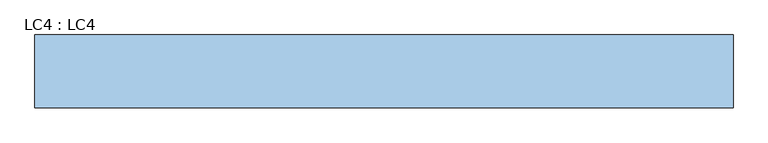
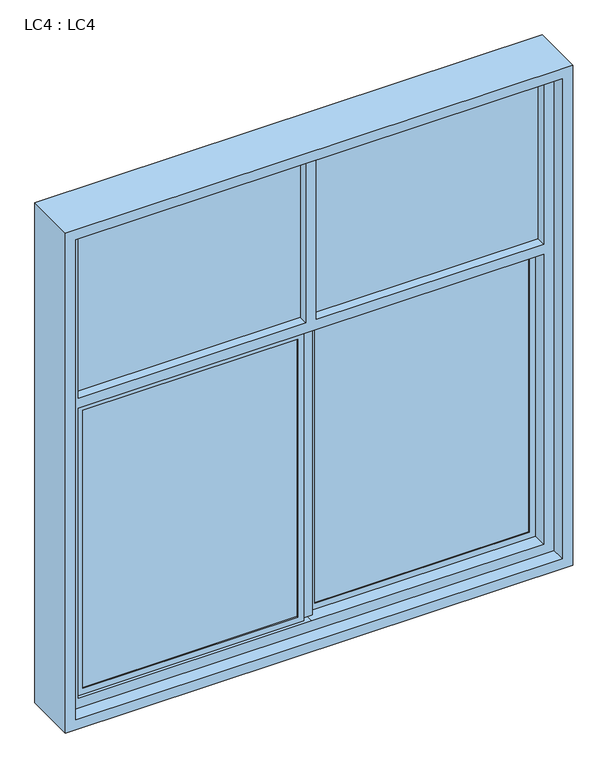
"""IFC4 building model written with IfcOpenShell, lengths in millimetres: window geometry, LC4 : LC4."""

import ifcopenshell
import ifcopenshell.guid

model = None  # the IFC model being written
_history = None  # IfcOwnerHistory: only IFC2X3 demands one
_inside = {}  # id of a spatial element -> (the spatial element, [elements in it])
_under = {}  # id of a project, library or spatial element -> (it, [spatial elements below it])
_declared = {}  # id of a project -> (the project, [libraries it declares])
_typed = {}  # id of a type object -> (the type object, [elements of that type])
_made_of = {}  # id of a material, layer set ... -> (it, [elements and type objects made of it])


def new_model(schema):
    """Start an empty IFC model of exactly this schema.

    Asked for "IFC4X3", IfcOpenShell would pick the latest addendum, in which some entities
    have other attributes; the version numbers below select the first issue.
    IFC2X3 requires an IfcOwnerHistory on every rooted entity: one is made here for all.
    """
    global model, _history
    if schema == "IFC4X3":
        model = ifcopenshell.file(schema_version=(4, 3, 0, 0))
    else:
        model = ifcopenshell.file(schema=schema)
    _inside.clear()
    _under.clear()
    _declared.clear()
    _typed.clear()
    _made_of.clear()
    _history = None
    if model.schema == "IFC2X3":
        org = make("IfcOrganization", Name="unknown")
        user = make(
            "IfcPersonAndOrganization",
            ThePerson=make("IfcPerson", FamilyName="unknown"),
            TheOrganization=org,
        )
        app = make(
            "IfcApplication",
            ApplicationDeveloper=org,
            Version="unknown",
            ApplicationFullName="unknown",
            ApplicationIdentifier="unknown",
        )
        _history = make(
            "IfcOwnerHistory",
            OwningUser=user,
            OwningApplication=app,
            ChangeAction="ADDED",
            CreationDate=0,
        )
    return model


def make(cls, **values):
    """One entity of the class cls with the attributes given. An attribute that is None is left unset."""
    return model.create_entity(
        cls, **{name: value for name, value in values.items() if value is not None}
    )


def rooted(cls, **values):
    """An entity with a GlobalId (a new one), such as an element, a storey or a relation."""
    return make(cls, GlobalId=ifcopenshell.guid.new(), OwnerHistory=_history, **values)


def si_unit(unit_type, name, prefix=None):
    """IfcSIUnit, for example si_unit("LENGTHUNIT", "METRE", prefix="MILLI")."""
    return make("IfcSIUnit", UnitType=unit_type, Prefix=prefix, Name=name)


def assignment(units):
    """IfcUnitAssignment: the units of a project."""
    return None if units is None else make("IfcUnitAssignment", Units=units)


def point(xyz):
    """IfcCartesianPoint."""
    return None if xyz is None else make("IfcCartesianPoint", Coordinates=xyz)


def direction(xyz):
    """IfcDirection."""
    return None if xyz is None else make("IfcDirection", DirectionRatios=xyz)


def frame(location, z_axis=None, x_axis=None):
    """IfcAxis2Placement3D, a coordinate frame: its origin and axes. An axis left out is left unset."""
    return make(
        "IfcAxis2Placement3D",
        Location=point(location),
        Axis=direction(z_axis),
        RefDirection=direction(x_axis),
    )


def origin():
    """The frame at (0, 0, 0) with its axes left unset."""
    return frame((0.0, 0.0, 0.0))


def place(relative_to, where):
    """IfcLocalPlacement: puts the frame where relative to a parent placement (None: the world)."""
    return make(
        "IfcLocalPlacement", PlacementRelTo=relative_to, RelativePlacement=where
    )


def context(
    kind, dimensions, precision=None, world=None, true_north=None, identifier=None
):
    """IfcGeometricRepresentationContext, for example the 3D "Model" context."""
    return make(
        "IfcGeometricRepresentationContext",
        ContextIdentifier=identifier,
        ContextType=kind,
        CoordinateSpaceDimension=dimensions,
        Precision=precision,
        WorldCoordinateSystem=world,
        TrueNorth=true_north,
    )


def project(units=None, contexts=None):
    """IfcProject with its units and contexts."""
    return rooted(
        "IfcProject",
        Name="project",
        RepresentationContexts=contexts,
        UnitsInContext=assignment(units),
    )


def spatial(cls, under=None, at=None, **own):
    """A site, building, storey or space (cls), placed at a placement, below another one or the project."""
    s = rooted(cls, ObjectPlacement=at, **own)
    if under is not None:
        _under.setdefault(under.id(), (under, []))[1].append(s)
    return s


def polyline(points):
    """IfcPolyline through the points."""
    return make("IfcPolyline", Points=[point(p) for p in points])


def outline(outer, holes=None, kind="AREA"):
    """IfcArbitraryClosedProfileDef: a profile drawn as a closed curve; with holes, ...WithVoids."""
    if holes is None:
        return make("IfcArbitraryClosedProfileDef", ProfileType=kind, OuterCurve=outer)
    return make(
        "IfcArbitraryProfileDefWithVoids",
        ProfileType=kind,
        OuterCurve=outer,
        InnerCurves=holes,
    )


def extrude(swept, where, along, depth):
    """IfcExtrudedAreaSolid: the profile swept, set in the frame where, extruded along a direction by depth."""
    return make(
        "IfcExtrudedAreaSolid",
        SweptArea=swept,
        Position=where,
        ExtrudedDirection=direction(along),
        Depth=depth,
    )


def shape(context_of_items, identifier, shape_type, items):
    """IfcShapeRepresentation: the items that make up one representation, for example the "Body"."""
    return make(
        "IfcShapeRepresentation",
        ContextOfItems=context_of_items,
        RepresentationIdentifier=identifier,
        RepresentationType=shape_type,
        Items=items,
    )


def source(mapping_origin, context_of_items, identifier, shape_type, items):
    """IfcRepresentationMap: a shape defined once, which mapped items show again and again."""
    return make(
        "IfcRepresentationMap",
        MappingOrigin=mapping_origin,
        MappedRepresentation=shape(context_of_items, identifier, shape_type, items),
    )


def transform(
    local_origin,
    x_axis=None,
    y_axis=None,
    z_axis=None,
    scale=None,
    scale2=None,
    scale3=None,
    uniform=True,
):
    """IfcCartesianTransformationOperator3D, or its non-uniform kind. x_axis, y_axis, z_axis: its Axis1, 2, 3."""
    if uniform:
        return make(
            "IfcCartesianTransformationOperator3D",
            Axis1=direction(x_axis),
            Axis2=direction(y_axis),
            LocalOrigin=point(local_origin),
            Scale=scale,
            Axis3=direction(z_axis),
        )
    return make(
        "IfcCartesianTransformationOperator3DnonUniform",
        Axis1=direction(x_axis),
        Axis2=direction(y_axis),
        LocalOrigin=point(local_origin),
        Scale=scale,
        Axis3=direction(z_axis),
        Scale2=scale2,
        Scale3=scale3,
    )


def mapped(mapping_source, mapping_target):
    """IfcMappedItem: shows the shape of a source again, moved by a transform."""
    return make(
        "IfcMappedItem", MappingSource=mapping_source, MappingTarget=mapping_target
    )


def made_of(thing, what):
    """Note that an element or type object is made of a material, layer set ...; save() writes the relation."""
    if what is not None:
        _made_of.setdefault(what.id(), (what, []))[1].append(thing)
    return thing


def element(
    cls,
    number,
    at=None,
    inside=None,
    cuts=None,
    type_object=None,
    material=None,
    context=None,
    identifier="Body",
    shape_type=None,
    held_by="IfcProductDefinitionShape",
    body=None,
    shapes=None,
    **own,
):
    """One element of the class cls, such as IfcWall. Its Tag is "e" and its number.

    at: its placement. inside: the storey or other place that contains it. cuts: it is an
    opening in that element (IfcRelVoidsElement). A single representation is given by context,
    identifier, shape_type and body (its items); several are given by shapes. held_by: the class
    of the entity that holds the representations. save() writes the other relations.
    """
    e = rooted(cls, Tag="e%d" % number, ObjectPlacement=at, **own)
    if body is not None:
        shapes = [shape(context, identifier, shape_type, body)]
    if shapes is not None:
        e.Representation = make(held_by, Representations=shapes)
    if inside is not None:
        _inside.setdefault(inside.id(), (inside, []))[1].append(e)
    if cuts is not None:
        rooted(
            "IfcRelVoidsElement", RelatingBuildingElement=cuts, RelatedOpeningElement=e
        )
    if type_object is not None:
        _typed.setdefault(type_object.id(), (type_object, []))[1].append(e)
    return made_of(e, material)


def aggregate(whole, parts):
    """IfcRelAggregates: a whole, such as a stair, and the parts it consists of."""
    return rooted("IfcRelAggregates", RelatingObject=whole, RelatedObjects=parts)


def save(model, path):
    """Write the relations noted so far, then the file.

    IfcRelAggregates (storeys below a building ...), IfcRelContainedInSpatialStructure (elements
    in a storey), IfcRelDefinesByType, IfcRelAssociatesMaterial and IfcRelDeclares: one each for
    every whole, place, type object, material and project.
    """
    for whole, parts in _under.values():
        aggregate(whole, parts)
    for where, things in _inside.values():
        rooted(
            "IfcRelContainedInSpatialStructure",
            RelatedElements=things,
            RelatingStructure=where,
        )
    for kind, things in _typed.values():
        rooted("IfcRelDefinesByType", RelatedObjects=things, RelatingType=kind)
    for what, things in _made_of.values():
        rooted("IfcRelAssociatesMaterial", RelatedObjects=things, RelatingMaterial=what)
    for by, libraries in _declared.values():
        rooted("IfcRelDeclares", RelatingContext=by, RelatedDefinitions=libraries)
    model.write(path)


def lc4_lc4_4954e093(model_context):
    return source(origin(), model_context, "Body", "SweptSolid", [
        extrude(outline(polyline([(1070.0, 20.0), (55.0, 20.0), (55.0, 30.0), (1070.0, 30.0), (1070.0, 20.0)])), frame((0.0, 0.0, 1030.0), z_axis=(0.0, 0.0, 1.0), x_axis=(1.0, 0.0, 0.0)), (0.0, 0.0, 1.0), 1390.0),
        extrude(outline(polyline([(-55.0, -30.0), (-1070.0, -30.0), (-1070.0, -20.0), (-55.0, -20.0), (-55.0, -30.0)])), frame((0.0, 0.0, 1030.0), z_axis=(0.0, 0.0, 1.0), x_axis=(1.0, 0.0, 0.0)), (0.0, 0.0, 1.0), 1390.0),
        extrude(outline(polyline([(-25.0, -5.0), (-1100.0, -5.0), (-1100.0, 5.0), (-25.0, 5.0), (-25.0, -5.0)])), frame((0.0, 0.0, 2500.0), z_axis=(0.0, 0.0, 1.0), x_axis=(1.0, 0.0, 0.0)), (0.0, 0.0, 1.0), 800.0),
        extrude(outline(polyline([(1100.0, -5.0), (25.0, -5.0), (25.0, 5.0), (1100.0, 5.0), (1100.0, -5.0)])), frame((0.0, 0.0, 2500.0), z_axis=(0.0, 0.0, 1.0), x_axis=(1.0, 0.0, 0.0)), (0.0, 0.0, 1.0), 800.0),
        extrude(outline(polyline([(25.0, -15.0), (-25.0, -15.0), (-25.0, 15.0), (25.0, 15.0), (25.0, -15.0)])), frame((0.0, 0.0, 1000.0), z_axis=(0.0, 0.0, 1.0), x_axis=(1.0, 0.0, 0.0)), (0.0, 0.0, 1.0), 1450.0),
        extrude(outline(polyline([(2450.0, 1100.0), (2450.0, 25.0), (1000.0, 25.0), (1000.0, 1100.0), (2450.0, 1100.0)]), holes=[polyline([(2420.0, 1070.0), (1030.0, 1070.0), (1030.0, 55.0), (2420.0, 55.0), (2420.0, 1070.0)])]), frame((0.0, 15.0, 0.0), z_axis=(0.0, 1.0, 0.0), x_axis=(0.0, 0.0, 1.0)), (0.0, 0.0, 1.0), 20.0),
        extrude(outline(polyline([(2450.0, -25.0), (2450.0, -1100.0), (1000.0, -1100.0), (1000.0, -25.0), (2450.0, -25.0)]), holes=[polyline([(2420.0, -55.0), (1030.0, -55.0), (1030.0, -1070.0), (2420.0, -1070.0), (2420.0, -55.0)])]), frame((0.0, -35.0, 0.0), z_axis=(0.0, 1.0, 0.0), x_axis=(0.0, 0.0, 1.0)), (0.0, 0.0, 1.0), 20.0),
        extrude(outline(polyline([(3350.0, 1150.0), (3350.0, -1150.0), (950.0, -1150.0), (950.0, 1150.0), (3350.0, 1150.0)]), holes=[polyline([(3300.0, -25.0), (2500.0, -25.0), (2500.0, -1100.0), (3300.0, -1100.0), (3300.0, -25.0)]), polyline([(3300.0, 1100.0), (2500.0, 1100.0), (2500.0, 25.0), (3300.0, 25.0), (3300.0, 1100.0)]), polyline([(2450.0, 1.4599267), (2450.0, 1100.0), (1000.0, 1100.0), (1000.0, 1.4599267), (1000.0, -1100.0), (2450.0, -1100.0), (2450.0, 1.4599267)])]), frame((0.0, -50.0, 0.0), z_axis=(0.0, 1.0, 0.0), x_axis=(0.0, 0.0, 1.0)), (0.0, 0.0, 1.0), 100.0),
        extrude(outline(polyline([(3400.0, 1200.0), (3400.0, -1200.0), (900.0, -1200.0), (900.0, 1200.0), (3400.0, 1200.0)]), holes=[polyline([(3350.0, 1150.0), (950.0, 1150.0), (950.0, -1150.0), (3350.0, -1150.0), (3350.0, 1150.0)])]), frame((0.0, -116.3011339, 0.0), z_axis=(0.0, 1.0, 0.0), x_axis=(0.0, 0.0, 1.0)), (0.0, 0.0, 1.0), 250.0),
    ])


if __name__ == "__main__":
    model = new_model("IFC4")
    model_context = context("Model", 3, world=origin())
    ifc_project = project(units=[si_unit("LENGTHUNIT", "METRE", prefix="MILLI")], contexts=[model_context])
    site = spatial("IfcSite", under=ifc_project)
    building = spatial("IfcBuilding", under=site)
    placement = place(None, origin())
    lc4_lc4_shape = lc4_lc4_4954e093(model_context)
    element("IfcWindow", 1, ObjectType="LC4 : LC4", at=placement, inside=building, context=model_context, shape_type="MappedRepresentation", body=[
        mapped(lc4_lc4_shape, transform((0.0, 0.0, 0.0), x_axis=(1.0, 0.0, 0.0), y_axis=(0.0, 1.0, 0.0), z_axis=(0.0, 0.0, 1.0))),
    ])
    save(model, "model.ifc")
